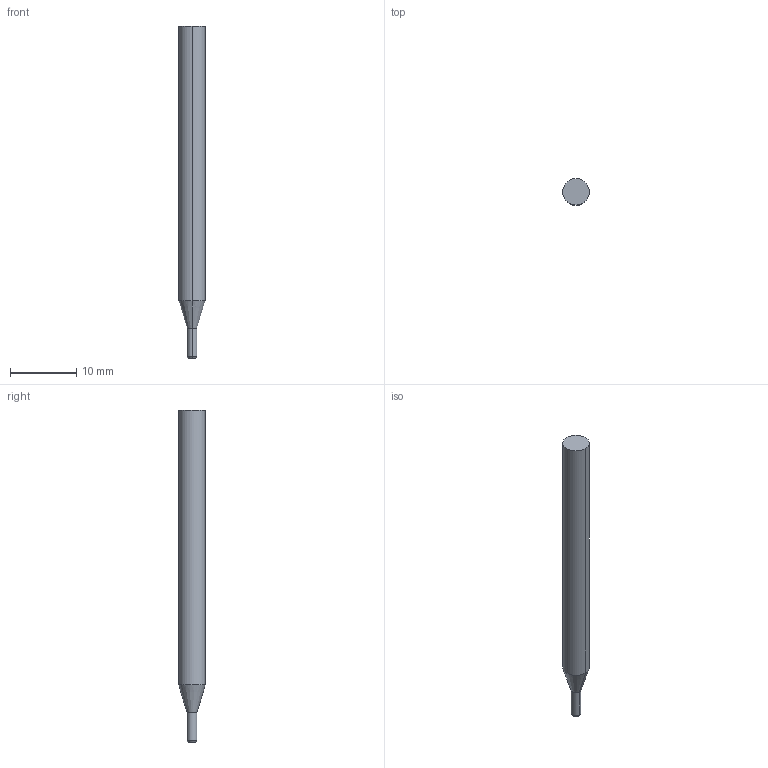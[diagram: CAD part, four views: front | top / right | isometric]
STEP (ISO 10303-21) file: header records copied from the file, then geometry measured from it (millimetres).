
FILE_DESCRIPTION((' '),'2;1');
FILE_NAME( '3MVRM0150R.20AH.stp', '2026-01-21T19:06:05', (' '), ('--- Datakit www.datakit.com---'), ' Datakit CrossCadWare V2025.4 Sep 19 2025', 'Mastercam 2027', ' ');
FILE_SCHEMA(('AUTOMOTIVE_DESIGN { 1 0 10303 214 1 1 1 1 }'));
Length unit declared in the file: inch
Products named in the file (1): 3MVRM0150R
Bounding box: 4 x 4 x 50 mm (x, y, z)
Volume: 554.4 mm3; surface area: 592.5 mm2
Topology: 1 solids, 1 shells, 10 faces, 18 edges, 10 vertices
Faces by surface type: cylinder 4, plane 2, torus 2, cone 2
Entity records: 318 total; most frequent: DIRECTION 60, CARTESIAN_POINT 43, ORIENTED_EDGE 36, AXIS2_PLACEMENT_3D 27, EDGE_CURVE 18, CIRCLE 12, VERTEX_POINT 10, EDGE_LOOP 10
